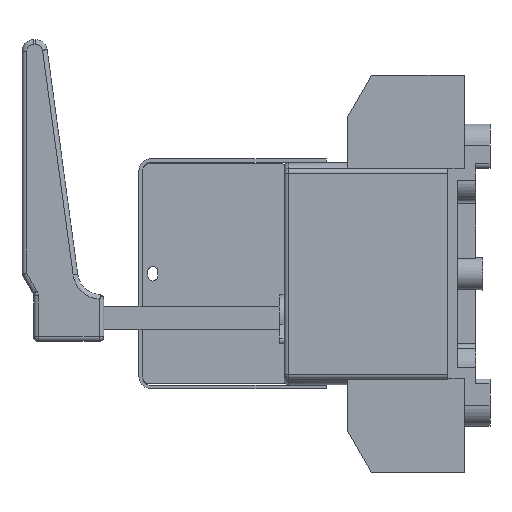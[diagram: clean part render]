
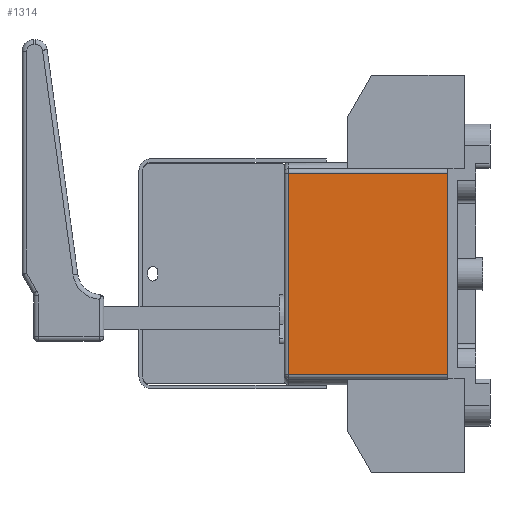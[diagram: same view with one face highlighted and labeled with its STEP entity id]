
A CAD part, left-side view. The second image highlights one B-rep face of the part: STEP entity #1314.
In plain terms, the highlighted planar face has unit normal (-1, 0, 0).
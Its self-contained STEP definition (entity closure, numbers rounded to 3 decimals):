
#438=FACE_OUTER_BOUND('',#3972,.T.);
#1314=ADVANCED_FACE('',(#438),#2283,.F.);
#2283=PLANE('',#19104);
#3972=EDGE_LOOP('',(#5433,#5434,#5435,#5436));
#5433=ORIENTED_EDGE('',*,*,#12624,.F.);
#5434=ORIENTED_EDGE('',*,*,#12625,.T.);
#5435=ORIENTED_EDGE('',*,*,#12621,.T.);
#5436=ORIENTED_EDGE('',*,*,#12626,.T.);
#10827=VERTEX_POINT('',#26658);
#10828=VERTEX_POINT('',#26659);
#10829=VERTEX_POINT('',#26664);
#10830=VERTEX_POINT('',#26665);
#12621=EDGE_CURVE('',#10827,#10828,#15278,.T.);
#12624=EDGE_CURVE('',#10829,#10830,#15279,.T.);
#12625=EDGE_CURVE('',#10829,#10827,#15280,.T.);
#12626=EDGE_CURVE('',#10828,#10830,#15281,.T.);
#15278=LINE('',#26657,#17247);
#15279=LINE('',#26663,#17248);
#15280=LINE('',#26666,#17249);
#15281=LINE('',#26667,#17250);
#17247=VECTOR('',#21095,1.);
#17248=VECTOR('',#21102,1.);
#17249=VECTOR('',#21103,1.);
#17250=VECTOR('',#21104,1.);
#19104=AXIS2_PLACEMENT_3D('',#26668,#21105,#21106);
#21095=DIRECTION('',(0.,-1.,0.));
#21102=DIRECTION('',(0.,-1.,0.));
#21103=DIRECTION('',(0.,0.,-1.));
#21104=DIRECTION('',(0.,0.,1.));
#21105=DIRECTION('',(1.,0.,0.));
#21106=DIRECTION('',(0.,0.,-1.));
#26657=CARTESIAN_POINT('',(-41.,35.,-43.));
#26658=CARTESIAN_POINT('',(-41.,68.,-43.));
#26659=CARTESIAN_POINT('',(-41.,0.,-43.));
#26663=CARTESIAN_POINT('',(-41.,35.,43.));
#26664=CARTESIAN_POINT('',(-41.,68.,43.));
#26665=CARTESIAN_POINT('',(-41.,0.,43.));
#26666=CARTESIAN_POINT('',(-41.,68.,-43.));
#26667=CARTESIAN_POINT('',(-41.,0.,-43.));
#26668=CARTESIAN_POINT('',(-41.,35.,-43.));
